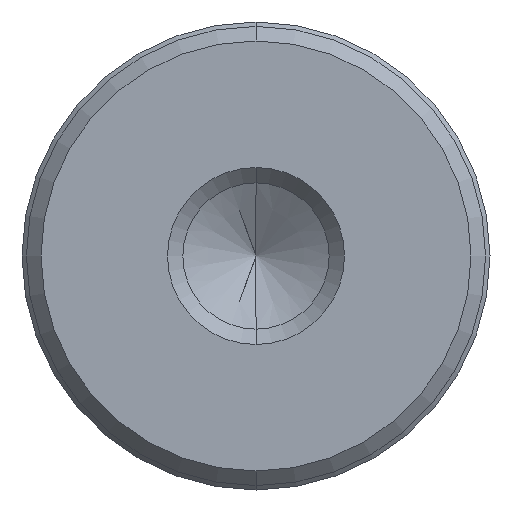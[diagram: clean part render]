
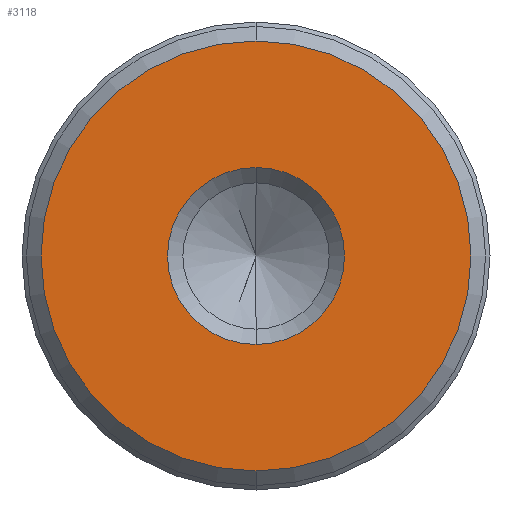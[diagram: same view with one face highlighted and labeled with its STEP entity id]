
A CAD part, front view. The second image highlights one B-rep face of the part: STEP entity #3118.
In plain terms, the highlighted planar face has unit normal (0, -1, 0).
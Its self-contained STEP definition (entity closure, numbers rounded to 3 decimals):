
#315 = ORIENTED_EDGE ( 'NONE', *, *, #5322, .F. ) ;
#448 = EDGE_CURVE ( 'NONE', #2237, #1484, #3553, .T. ) ;
#465 = DIRECTION ( 'NONE',  ( 0., 1., 0. ) ) ;
#613 = EDGE_CURVE ( 'NONE', #3766, #5574, #7937, .T. ) ;
#714 = FACE_OUTER_BOUND ( 'NONE', #2240, .T. ) ;
#748 = CARTESIAN_POINT ( 'NONE',  ( 0., -14., 0. ) ) ;
#920 = CARTESIAN_POINT ( 'NONE',  ( 0., -14., 0. ) ) ;
#1082 = CARTESIAN_POINT ( 'NONE',  ( 0., -14., 0. ) ) ;
#1107 = FACE_BOUND ( 'NONE', #8137, .T. ) ;
#1363 = DIRECTION ( 'NONE',  ( 0., 0., 1. ) ) ;
#1484 = VERTEX_POINT ( 'NONE', #5584 ) ;
#1538 = DIRECTION ( 'NONE',  ( 0., 1., 0. ) ) ;
#1766 = EDGE_CURVE ( 'NONE', #5574, #3766, #7985, .T. ) ;
#1818 = AXIS2_PLACEMENT_3D ( 'NONE', #920, #1538, #5982 ) ;
#2237 = VERTEX_POINT ( 'NONE', #2387 ) ;
#2240 = EDGE_LOOP ( 'NONE', ( #5398, #315 ) ) ;
#2387 = CARTESIAN_POINT ( 'NONE',  ( 0., -14., 7.35 ) ) ;
#2902 = CIRCLE ( 'NONE', #4890, 7.35 ) ;
#3011 = AXIS2_PLACEMENT_3D ( 'NONE', #3339, #7048, #3200 ) ;
#3118 = ADVANCED_FACE ( 'NONE', ( #1107, #714 ), #5359, .F. ) ;
#3200 = DIRECTION ( 'NONE',  ( 0., 0., -1. ) ) ;
#3339 = CARTESIAN_POINT ( 'NONE',  ( 0., -14., 0. ) ) ;
#3553 = CIRCLE ( 'NONE', #3837, 7.35 ) ;
#3766 = VERTEX_POINT ( 'NONE', #4404 ) ;
#3837 = AXIS2_PLACEMENT_3D ( 'NONE', #1082, #465, #5547 ) ;
#3894 = ORIENTED_EDGE ( 'NONE', *, *, #1766, .F. ) ;
#4113 = AXIS2_PLACEMENT_3D ( 'NONE', #4543, #5076, #7655 ) ;
#4404 = CARTESIAN_POINT ( 'NONE',  ( 0., -14., -3.025 ) ) ;
#4543 = CARTESIAN_POINT ( 'NONE',  ( 0., -14., 0. ) ) ;
#4890 = AXIS2_PLACEMENT_3D ( 'NONE', #748, #5179, #1363 ) ;
#5076 = DIRECTION ( 'NONE',  ( 0., -1., 0. ) ) ;
#5179 = DIRECTION ( 'NONE',  ( 0., 1., 0. ) ) ;
#5322 = EDGE_CURVE ( 'NONE', #1484, #2237, #2902, .T. ) ;
#5359 = PLANE ( 'NONE',  #1818 ) ;
#5398 = ORIENTED_EDGE ( 'NONE', *, *, #448, .F. ) ;
#5547 = DIRECTION ( 'NONE',  ( 0., 0., 1. ) ) ;
#5574 = VERTEX_POINT ( 'NONE', #7950 ) ;
#5584 = CARTESIAN_POINT ( 'NONE',  ( 0., -14., -7.35 ) ) ;
#5982 = DIRECTION ( 'NONE',  ( 0., 0., 1. ) ) ;
#7048 = DIRECTION ( 'NONE',  ( 0., -1., 0. ) ) ;
#7305 = ORIENTED_EDGE ( 'NONE', *, *, #613, .F. ) ;
#7655 = DIRECTION ( 'NONE',  ( 0., 0., -1. ) ) ;
#7937 = CIRCLE ( 'NONE', #4113, 3.025 ) ;
#7950 = CARTESIAN_POINT ( 'NONE',  ( 0., -14., 3.025 ) ) ;
#7985 = CIRCLE ( 'NONE', #3011, 3.025 ) ;
#8137 = EDGE_LOOP ( 'NONE', ( #7305, #3894 ) ) ;
